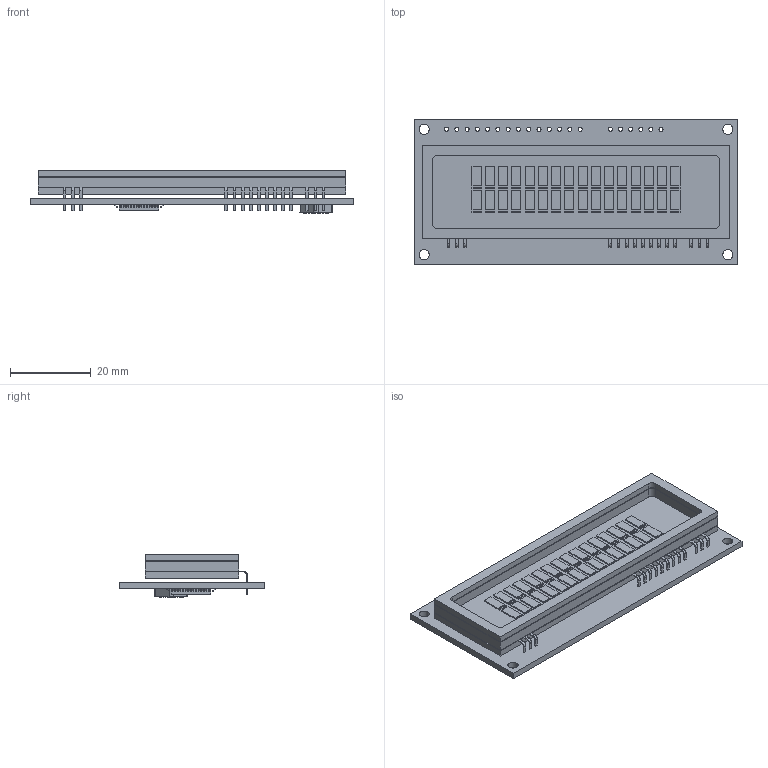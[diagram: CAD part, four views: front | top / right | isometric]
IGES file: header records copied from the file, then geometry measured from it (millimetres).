
Start section:  PTC IGES file: cu16025-uw6j.igs
Global section: file name: cu16025-uw6j.igs; native system: Pro/ENGINEER by Parametric Technology Corporation; preprocessor: 2010280; author: samx; organization: Unknown; date: 20140522.151326; units: millimetre
Bounding box: 80 x 36 x 10.6 mm (x, y, z)
Volume: 9334.8 mm3; surface area: 13927.4 mm2
Topology: 3 solids, 3 shells, 1244 faces, 3483 edges, 2312 vertices
Faces by surface type: bspline 927, revolution 317
